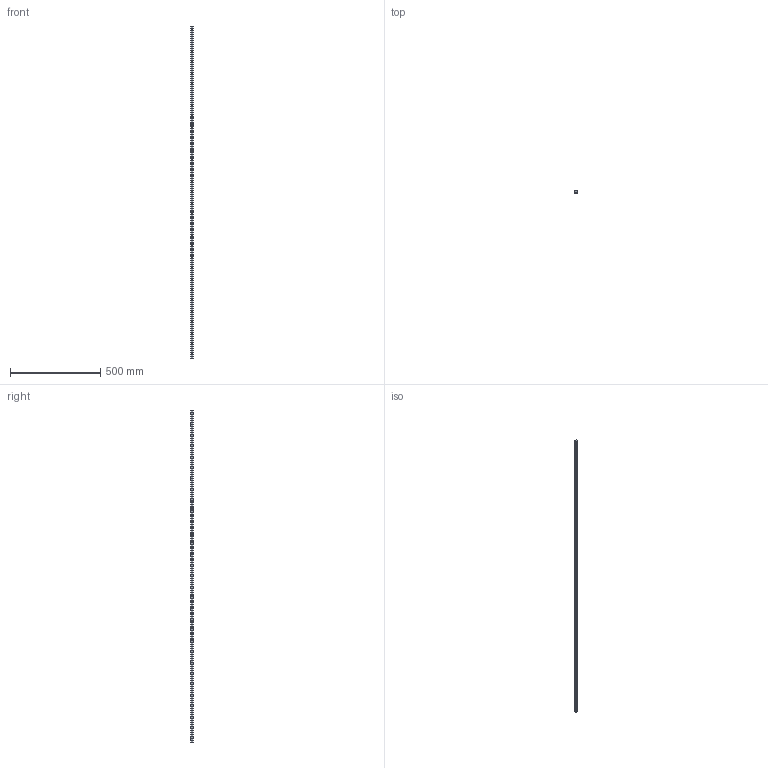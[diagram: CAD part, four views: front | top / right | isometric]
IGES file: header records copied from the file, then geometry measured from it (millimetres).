
Start section: SolidWorks IGES file using analytic representation for surfaces
Global section: file name: C:\Users\IanO\Desktop\L1016_v2\L1016.BL15_v2\L1016.BL15_v2_20190611_IGES\L1016.BL15-1840.igs; native system: SolidWorks 2017; preprocessor: SolidWorks 2017; author: IanO; date: 190612.123007; units: millimetre
Bounding box: 15 x 13 x 1840 mm (x, y, z)
Surface area: 112533.7 mm2 (no closed solid volume)
Topology: 0 solids, 0 shells, 181 faces, 4616 edges, 4616 vertices
Faces by surface type: revolution 128, bspline 53
